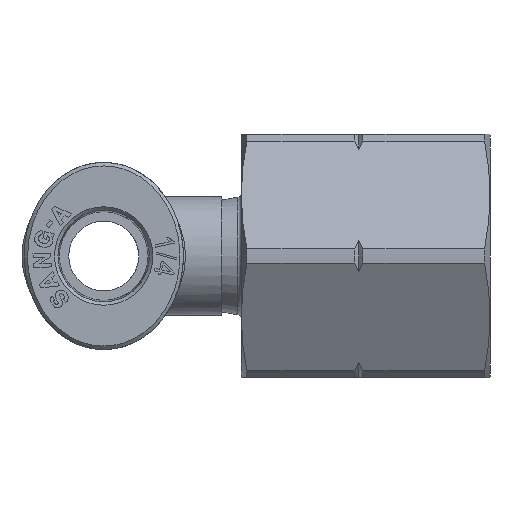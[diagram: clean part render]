
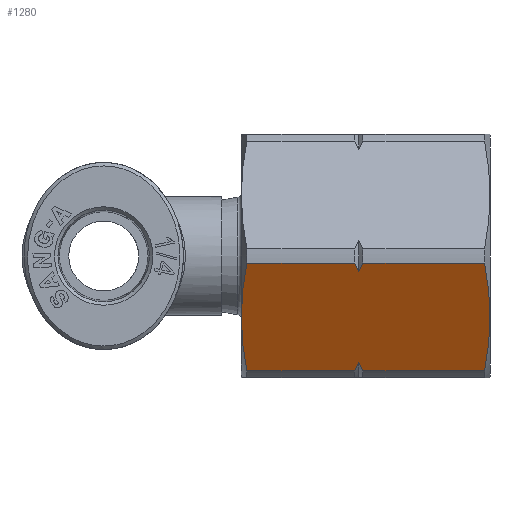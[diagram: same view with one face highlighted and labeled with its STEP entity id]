
A CAD part, front view. The second image highlights one B-rep face of the part: STEP entity #1280.
In plain terms, the highlighted planar face has unit normal (0, -0.866, -0.5).
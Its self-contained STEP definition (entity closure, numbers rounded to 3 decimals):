
#142=CARTESIAN_POINT('',(1.4,-7.561,-4.366));
#143=VERTEX_POINT('',#142);
#311=CARTESIAN_POINT('',(19.2,-7.561,-4.366));
#312=VERTEX_POINT('',#311);
#424=CARTESIAN_POINT('',(18.811,-9.787,-0.512));
#425=VERTEX_POINT('',#424);
#441=CARTESIAN_POINT('',(10.1,-9.787,-0.512));
#442=VERTEX_POINT('',#441);
#450=CARTESIAN_POINT('',(18.811,-9.787,-0.512));
#451=DIRECTION('',(-1.0,0.0,0.0));
#452=VECTOR('',#451,8.711);
#453=LINE('',#450,#452);
#454=EDGE_CURVE('',#425,#442,#453,.T.);
#464=CARTESIAN_POINT('',(18.811,-5.336,-8.22));
#465=VERTEX_POINT('',#464);
#475=CARTESIAN_POINT('',(10.1,-5.336,-8.22));
#476=VERTEX_POINT('',#475);
#477=CARTESIAN_POINT('',(10.1,-5.336,-8.22));
#478=DIRECTION('',(1.0,0.0,0.0));
#479=VECTOR('',#478,8.711);
#480=LINE('',#477,#479);
#481=EDGE_CURVE('',#476,#465,#480,.T.);
#508=CARTESIAN_POINT('',(1.789,-5.336,-8.22));
#509=VERTEX_POINT('',#508);
#525=CARTESIAN_POINT('',(9.5,-5.336,-8.22));
#526=VERTEX_POINT('',#525);
#534=CARTESIAN_POINT('',(1.789,-5.336,-8.22));
#535=DIRECTION('',(1.0,0.0,0.0));
#536=VECTOR('',#535,7.711);
#537=LINE('',#534,#536);
#538=EDGE_CURVE('',#509,#526,#537,.T.);
#548=CARTESIAN_POINT('',(1.789,-9.787,-0.512));
#549=VERTEX_POINT('',#548);
#559=CARTESIAN_POINT('',(9.5,-9.787,-0.512));
#560=VERTEX_POINT('',#559);
#561=CARTESIAN_POINT('',(9.5,-9.787,-0.512));
#562=DIRECTION('',(-1.0,0.0,0.0));
#563=VECTOR('',#562,7.711);
#564=LINE('',#561,#563);
#565=EDGE_CURVE('',#560,#549,#564,.T.);
#1079=CARTESIAN_POINT('',(9.8,-9.433,-1.123));
#1080=VERTEX_POINT('',#1079);
#1081=CARTESIAN_POINT('',(9.8,-9.433,-1.123));
#1082=CARTESIAN_POINT('',(9.663,-9.607,-0.822));
#1083=CARTESIAN_POINT('',(9.5,-9.787,-0.512));
#1091=(BOUNDED_CURVE()B_SPLINE_CURVE(2,(#1081,#1082,#1083),.UNSPECIFIED.,.F.,.U.)B_SPLINE_CURVE_WITH_KNOTS((3,3),(0.0,0.086),.UNSPECIFIED.)CURVE()GEOMETRIC_REPRESENTATION_ITEM()RATIONAL_B_SPLINE_CURVE((1.0,1.003,1.005))REPRESENTATION_ITEM(''));
#1092=EDGE_CURVE('',#1080,#560,#1091,.T.);
#1140=CARTESIAN_POINT('',(9.8,-5.69,-7.608));
#1141=VERTEX_POINT('',#1140);
#1149=CARTESIAN_POINT('',(9.5,-5.336,-8.22));
#1150=CARTESIAN_POINT('',(9.663,-5.516,-7.909));
#1151=CARTESIAN_POINT('',(9.8,-5.69,-7.608));
#1159=(BOUNDED_CURVE()B_SPLINE_CURVE(2,(#1149,#1150,#1151),.UNSPECIFIED.,.F.,.U.)B_SPLINE_CURVE_WITH_KNOTS((3,3),(0.339,0.425),.UNSPECIFIED.)CURVE()GEOMETRIC_REPRESENTATION_ITEM()RATIONAL_B_SPLINE_CURVE((1.005,1.003,1.0))REPRESENTATION_ITEM(''));
#1160=EDGE_CURVE('',#526,#1141,#1159,.T.);
#1171=CARTESIAN_POINT('',(9.8,-5.69,-7.608));
#1172=CARTESIAN_POINT('',(9.937,-5.516,-7.909));
#1173=CARTESIAN_POINT('',(10.1,-5.336,-8.22));
#1181=(BOUNDED_CURVE()B_SPLINE_CURVE(2,(#1171,#1172,#1173),.UNSPECIFIED.,.F.,.U.)B_SPLINE_CURVE_WITH_KNOTS((3,3),(0.0,0.086),.UNSPECIFIED.)CURVE()GEOMETRIC_REPRESENTATION_ITEM()RATIONAL_B_SPLINE_CURVE((1.0,1.003,1.005))REPRESENTATION_ITEM(''));
#1182=EDGE_CURVE('',#1141,#476,#1181,.T.);
#1201=CARTESIAN_POINT('',(19.2,-5.041,-8.731));
#1202=DIRECTION('',(0.,-0.866,-0.5));
#1203=DIRECTION('',(0.,-0.5,0.866));
#1204=AXIS2_PLACEMENT_3D('',#1201,#1202,#1203);
#1205=PLANE('',#1204);
#1206=ORIENTED_EDGE('',*,*,#565,.T.);
#1207=CARTESIAN_POINT('',(1.789,-9.787,-0.512));
#1208=CARTESIAN_POINT('',(1.4,-8.61,-2.55));
#1209=CARTESIAN_POINT('',(1.4,-7.561,-4.366));
#1217=(BOUNDED_CURVE()B_SPLINE_CURVE(2,(#1207,#1208,#1209),.UNSPECIFIED.,.F.,.U.)B_SPLINE_CURVE_WITH_KNOTS((3,3),(0.127,0.588),.UNSPECIFIED.)CURVE()GEOMETRIC_REPRESENTATION_ITEM()RATIONAL_B_SPLINE_CURVE((1.017,1.039,1.0))REPRESENTATION_ITEM(''));
#1218=EDGE_CURVE('',#549,#143,#1217,.T.);
#1219=ORIENTED_EDGE('',*,*,#1218,.T.);
#1220=CARTESIAN_POINT('',(1.4,-7.561,-4.366));
#1221=CARTESIAN_POINT('',(1.4,-6.513,-6.182));
#1222=CARTESIAN_POINT('',(1.789,-5.336,-8.22));
#1230=(BOUNDED_CURVE()B_SPLINE_CURVE(2,(#1220,#1221,#1222),.UNSPECIFIED.,.F.,.U.)B_SPLINE_CURVE_WITH_KNOTS((3,3),(0.588,1.048),.UNSPECIFIED.)CURVE()GEOMETRIC_REPRESENTATION_ITEM()RATIONAL_B_SPLINE_CURVE((1.0,1.039,1.017))REPRESENTATION_ITEM(''));
#1231=EDGE_CURVE('',#143,#509,#1230,.T.);
#1232=ORIENTED_EDGE('',*,*,#1231,.T.);
#1233=ORIENTED_EDGE('',*,*,#538,.T.);
#1234=ORIENTED_EDGE('',*,*,#1160,.T.);
#1235=ORIENTED_EDGE('',*,*,#1182,.T.);
#1236=ORIENTED_EDGE('',*,*,#481,.T.);
#1237=CARTESIAN_POINT('',(18.811,-5.336,-8.22));
#1238=CARTESIAN_POINT('',(19.2,-6.513,-6.182));
#1239=CARTESIAN_POINT('',(19.2,-7.561,-4.366));
#1247=(BOUNDED_CURVE()B_SPLINE_CURVE(2,(#1237,#1238,#1239),.UNSPECIFIED.,.F.,.U.)B_SPLINE_CURVE_WITH_KNOTS((3,3),(0.127,0.588),.UNSPECIFIED.)CURVE()GEOMETRIC_REPRESENTATION_ITEM()RATIONAL_B_SPLINE_CURVE((1.017,1.039,1.0))REPRESENTATION_ITEM(''));
#1248=EDGE_CURVE('',#465,#312,#1247,.T.);
#1249=ORIENTED_EDGE('',*,*,#1248,.T.);
#1250=CARTESIAN_POINT('',(19.2,-7.561,-4.366));
#1251=CARTESIAN_POINT('',(19.2,-8.61,-2.55));
#1252=CARTESIAN_POINT('',(18.811,-9.787,-0.512));
#1260=(BOUNDED_CURVE()B_SPLINE_CURVE(2,(#1250,#1251,#1252),.UNSPECIFIED.,.F.,.U.)B_SPLINE_CURVE_WITH_KNOTS((3,3),(0.588,1.048),.UNSPECIFIED.)CURVE()GEOMETRIC_REPRESENTATION_ITEM()RATIONAL_B_SPLINE_CURVE((1.0,1.039,1.017))REPRESENTATION_ITEM(''));
#1261=EDGE_CURVE('',#312,#425,#1260,.T.);
#1262=ORIENTED_EDGE('',*,*,#1261,.T.);
#1263=ORIENTED_EDGE('',*,*,#454,.T.);
#1264=CARTESIAN_POINT('',(10.1,-9.787,-0.512));
#1265=CARTESIAN_POINT('',(9.937,-9.607,-0.822));
#1266=CARTESIAN_POINT('',(9.8,-9.433,-1.123));
#1274=(BOUNDED_CURVE()B_SPLINE_CURVE(2,(#1264,#1265,#1266),.UNSPECIFIED.,.F.,.U.)B_SPLINE_CURVE_WITH_KNOTS((3,3),(0.339,0.425),.UNSPECIFIED.)CURVE()GEOMETRIC_REPRESENTATION_ITEM()RATIONAL_B_SPLINE_CURVE((1.005,1.003,1.0))REPRESENTATION_ITEM(''));
#1275=EDGE_CURVE('',#442,#1080,#1274,.T.);
#1276=ORIENTED_EDGE('',*,*,#1275,.T.);
#1277=ORIENTED_EDGE('',*,*,#1092,.T.);
#1278=EDGE_LOOP('',(#1206,#1219,#1232,#1233,#1234,#1235,#1236,#1249,#1262,#1263,#1276,#1277));
#1279=FACE_OUTER_BOUND('',#1278,.T.);
#1280=ADVANCED_FACE('',(#1279),#1205,.T.);
